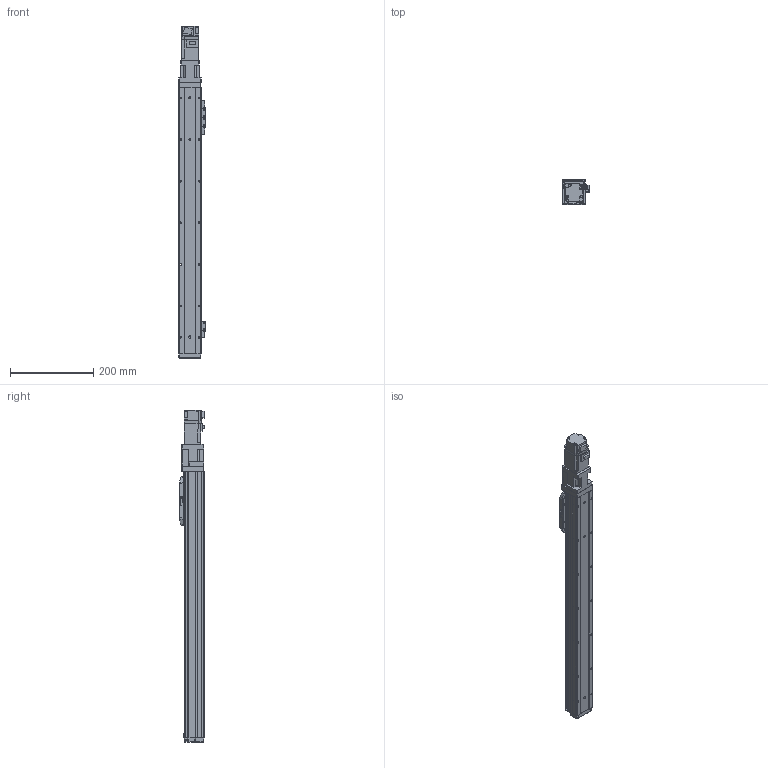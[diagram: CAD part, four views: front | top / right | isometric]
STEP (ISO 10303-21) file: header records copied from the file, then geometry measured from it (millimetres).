
FILE_DESCRIPTION (( 'STEP AP214' ), '1' );
FILE_NAME ('N_GRH5-500-BC-M10.step', '2025-03-14T09:34:06', ( '' ), ( '' ), 'SwSTEP 2.0', 'SolidWorks 2016', '' );
FILE_SCHEMA (( 'AUTOMOTIVE_DESIGN' ));
Length unit declared in the file: millimetre
Products named in the file (5): N_GRH5-500-BC-M10; N_GRH5-GY-004^N_GRH5-500-BC-M10; N_GRH5-GY-011^N_GRH5-500-BC-M10; HF-KP13_100W_Motor^N_GRH5-500-BC-M10; N_GRH5-BC-008^N_GRH5-500-BC-M10
Assembly tree (4 placements, depth 2):
  N_GRH5-500-BC-M10
    N_GRH5-GY-011^N_GRH5-500-BC-M10
    N_GRH5-GY-004^N_GRH5-500-BC-M10
    N_GRH5-BC-008^N_GRH5-500-BC-M10
    HF-KP13_100W_Motor^N_GRH5-500-BC-M10
Bounding box: 64.05 x 60.7 x 797.9 mm (x, y, z)
Volume: 1303473.8 mm3; surface area: 348657.4 mm2
Topology: 4 solids, 5 shells, 934 faces, 2414 edges, 1535 vertices
Faces by surface type: plane 554, cylinder 320, cone 58, sphere 2
Entity records: 34894 total; most frequent: CARTESIAN_POINT 4926, DIRECTION 4925, ORIENTED_EDGE 4756, EDGE_CURVE 2378, VECTOR 1677, LINE 1677, AXIS2_PLACEMENT_3D 1624, VERTEX_POINT 1533
